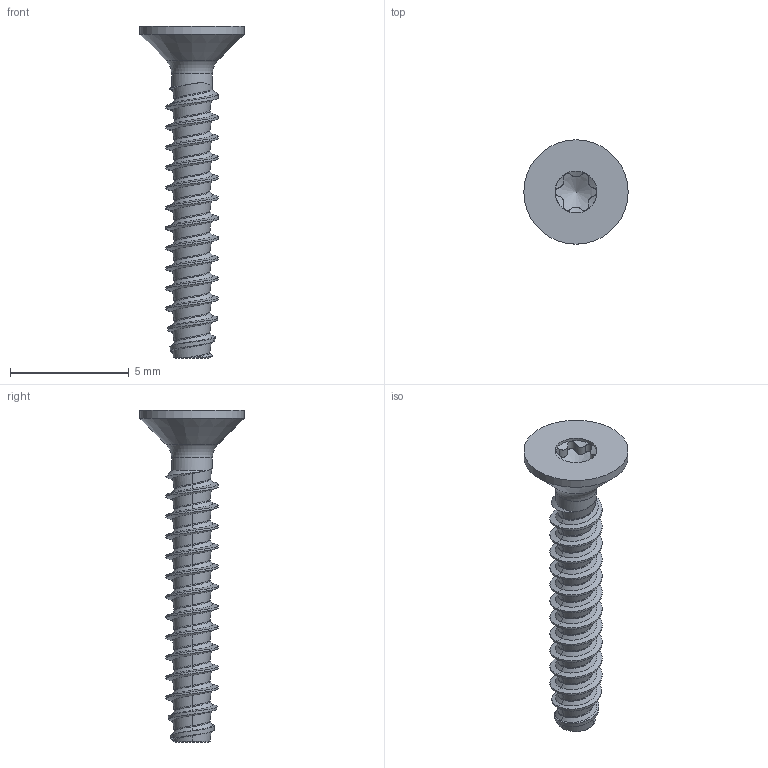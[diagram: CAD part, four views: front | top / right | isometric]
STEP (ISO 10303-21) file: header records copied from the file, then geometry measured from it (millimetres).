
FILE_DESCRIPTION(/* description */ (''),/* implementation_level */ '2;1');
FILE_NAME(/* name */ 'KN6041-STSplus-22x14-T6.step',/* time_stamp */ '2017-10-12T09:13:15+02:00',/* author */ (''),/* organization */ (''),/* preprocessor_version */ 'ST-DEVELOPER v16',/* originating_system */ 'SIEMENS PLM Software NX 10.0',/* authorisation */ '');
FILE_SCHEMA (('AUTOMOTIVE_DESIGN { 1 0 10303 214 3 1 1 1 }'));
Length unit declared in the file: millimetre
Products named in the file (1): KN6041-STSplus-22x14-T6
Bounding box: 4.4 x 4.4 x 14 mm (x, y, z)
Surface area: 141.9 mm2 (no closed solid volume)
Topology: 0 solids, 1 shells, 85 faces, 221 edges, 137 vertices
Faces by surface type: bspline 59, cylinder 17, cone 5, torus 2, plane 2
Full cylindrical faces by diameter (mm): 1.72 x1, 1.77 x1, 4.4 x1
Entity records: 6336 total; most frequent: CARTESIAN_POINT 4763, ORIENTED_EDGE 406, EDGE_CURVE 203, DIRECTION 142, VERTEX_POINT 129, B_SPLINE_CURVE_WITH_KNOTS 126, EDGE_LOOP 93, ADVANCED_FACE 85
